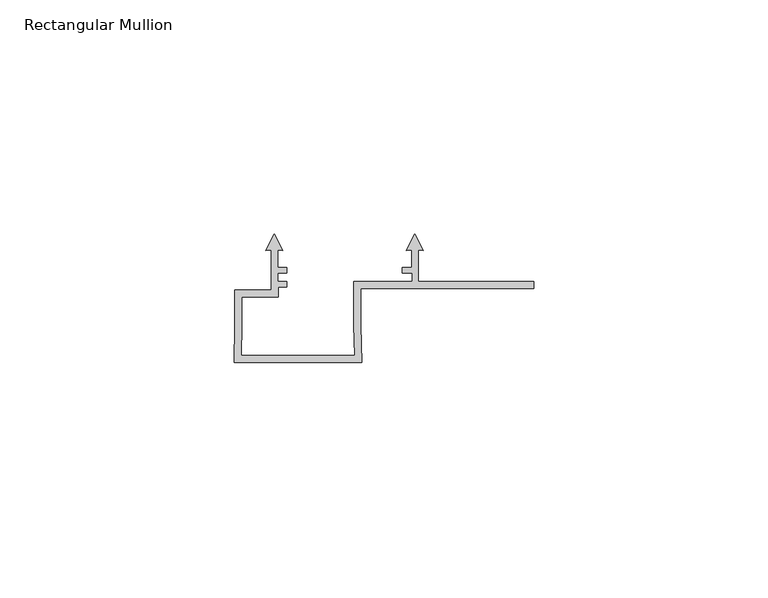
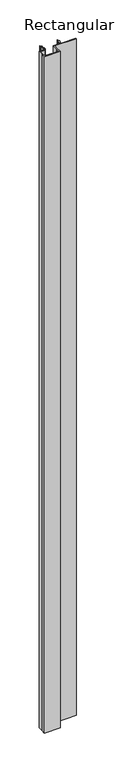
"""IFC4 building model written with IfcOpenShell, lengths in millimetres: member geometry, Rectangular Mullion : Renson_Linarte_LA-B16-01."""

from ifc_helpers import new_model, si_unit, frame, origin, place, context, project, spatial, polyline, outline, extrude, source, transform, mapped, element, save


def rectangular_mullion_f86fa1ba(model_context):
    return source(origin(), model_context, "Body", "SweptSolid", [
        extrude(outline(polyline([(0.0, -52.6000001), (0.1443272, -44.5977912), (0.1443272, -37.0995654), (7.9351461, -37.0995654), (7.9351461, -28.5038205), (6.8194096, -28.6014348), (8.6351462, -25.0378474), (10.4508827, -28.6014348), (9.3351463, -28.5038206), (9.3351463, -32.198351), (11.3227094, -32.198351), (11.3227094, -33.4004386), (9.344327, -33.4004386), (9.344327, -35.1999954), (11.3232242, -35.1999954), (11.3232242, -36.4015214), (9.4446143, -36.4015214), (9.4446143, -38.5997951), (1.6351472, -38.5997951), (1.6351135, -44.6153631), (1.5181226, -51.0999998), (25.7521689, -51.0999998), (25.6351455, -44.6117002), (25.6351455, -35.1999997), (38.0351451, -35.1999997), (38.0351451, -33.4008281), (35.942882, -33.4008281), (35.942882, -32.1999997), (37.9351461, -32.1999997), (37.9351461, -28.5038204), (36.8194083, -28.6014348), (38.635145, -25.0378474), (40.4508816, -28.6014348), (39.3351463, -28.5038207), (39.3351463, -35.2056679), (64.1, -35.2056679), (64.1, -36.7004291), (27.1353052, -36.7004291), (27.1352165, -44.6039069), (27.279476, -52.6000001), (0.0, -52.6000001)])), frame((0.0, 0.0, -1225.5020157), z_axis=(0.0, 0.0, 1.0), x_axis=(1.0, 0.0, 0.0)), (0.0, 0.0, 1.0), 1225.5020157),
    ])


if __name__ == "__main__":
    model = new_model("IFC4")
    model_context = context("Model", 3, world=origin())
    ifc_project = project(units=[si_unit("LENGTHUNIT", "METRE", prefix="MILLI")], contexts=[model_context])
    site = spatial("IfcSite", under=ifc_project)
    building = spatial("IfcBuilding", under=site)
    placement = place(None, origin())
    rectangular_mullion_shape = rectangular_mullion_f86fa1ba(model_context)
    element("IfcMember", 1, ObjectType="Rectangular Mullion : Renson_Linarte_LA-B16-01", at=placement, inside=building, context=model_context, shape_type="MappedRepresentation", body=[
        mapped(rectangular_mullion_shape, transform((0.0, 0.0, 0.0), x_axis=(1.0, 0.0, 0.0), y_axis=(0.0, 1.0, 0.0), z_axis=(0.0, 0.0, 1.0))),
    ])
    save(model, "model.ifc")
